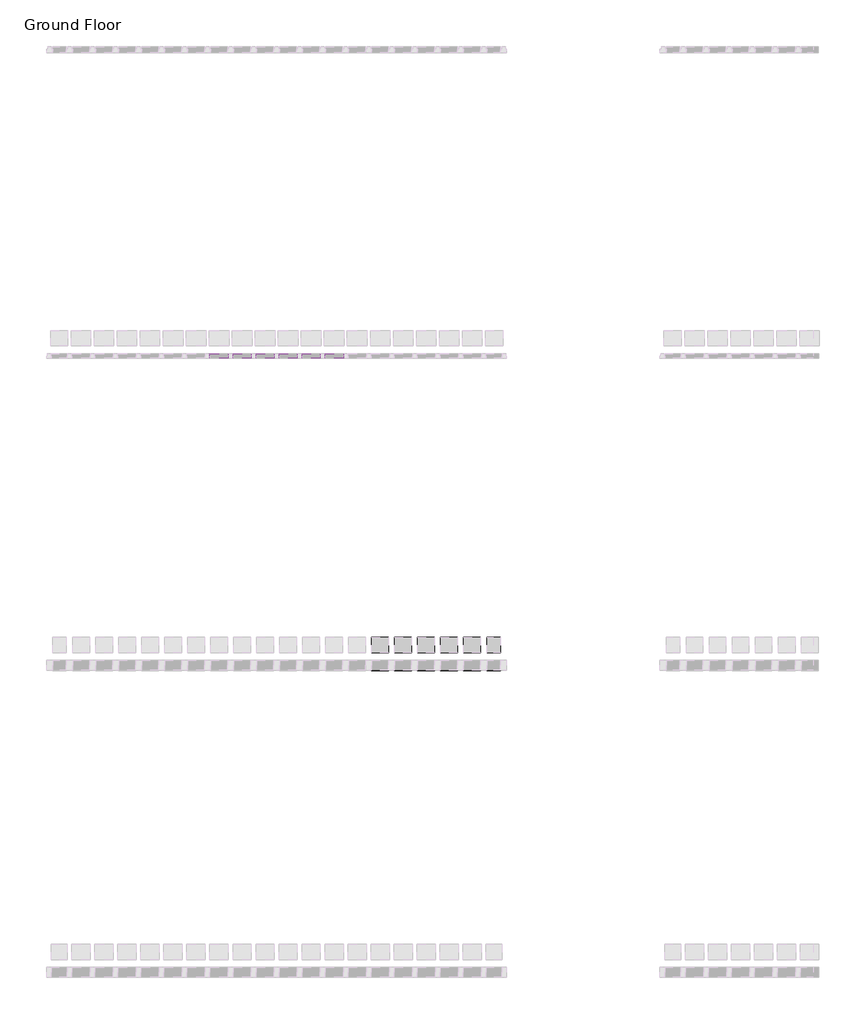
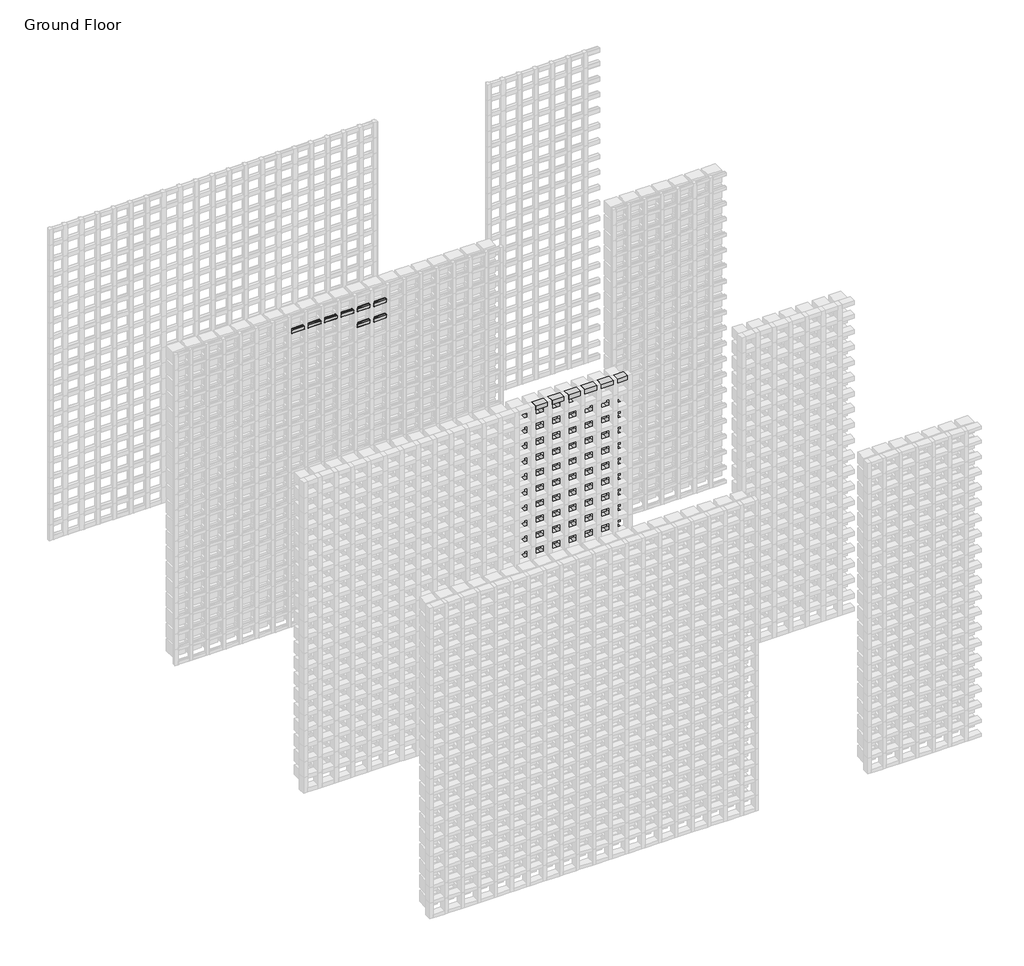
# One storey, part 141 of 350: 111 plates, 27 members.
"""IFC4 building model written with IfcOpenShell, lengths in millimetres."""

from ifc_helpers import new_model, si_unit, origin, place, context, project, spatial, transform, mapped, element, save
from components import rectangular_mullion_01bdf753, rectangular_mullion_655930e9, rectangular_mullion_78309e0b, rectangular_mullion_581565bb, rectangular_mullion_141bfd94, rectangular_mullion_d5b82d3d, rectangular_mullion_f7732041, empty_system_panel_empty_571a4fa0, empty_system_panel_empty_3b500fad, empty_system_panel_empty_1faefc6a, empty_system_panel_empty_b6d7d726

model = new_model("IFC4")

# Units and contexts
model_context = context("Model", 3, world=origin())
ifc_project = project(units=[si_unit("LENGTHUNIT", "METRE", prefix="MILLI")], contexts=[model_context])

# Site, building, storey
site = spatial("IfcSite", under=ifc_project)
building = spatial("IfcBuilding", under=site)
storey = spatial("IfcBuildingStorey", under=building, Name="Ground Floor", Elevation=0.0)

# Members
placement = place(None, origin())
rectangular_mullion_shape = rectangular_mullion_01bdf753(model_context)
element("IfcMember", 1, ObjectType="Rectangular Mullion : Batten_Timber_Modinex_Austratus_Grid_Fin_30x30_Hemlock", at=placement, inside=storey, context=model_context, shape_type="MappedRepresentation", body=[
    mapped(rectangular_mullion_shape, transform((11701.4361642, 42968.2978302, 2700.0), x_axis=(0.0, 0.0, 1.0), y_axis=(0.0, -1.0, 0.0), z_axis=(1.0, 0.0, 0.0))),
])
element("IfcMember", 2, ObjectType="Rectangular Mullion : Batten_Timber_Modinex_Austratus_Grid_Fin_30x30_Hemlock", at=placement, inside=storey, context=model_context, shape_type="MappedRepresentation", body=[
    mapped(rectangular_mullion_shape, transform((11851.4361642, 42968.2978302, 2700.0), x_axis=(0.0, 0.0, 1.0), y_axis=(0.0, -1.0, 0.0), z_axis=(1.0, 0.0, 0.0))),
])
element("IfcMember", 3, ObjectType="Rectangular Mullion : Batten_Timber_Modinex_Austratus_Grid_Fin_30x30_Hemlock", at=placement, inside=storey, context=model_context, shape_type="MappedRepresentation", body=[
    mapped(rectangular_mullion_shape, transform((11101.4361642, 42968.2978302, 2850.0), x_axis=(0.0, 0.0, 1.0), y_axis=(0.0, -1.0, 0.0), z_axis=(1.0, 0.0, 0.0))),
])
element("IfcMember", 4, ObjectType="Rectangular Mullion : Batten_Timber_Modinex_Austratus_Grid_Fin_30x30_Hemlock", at=placement, inside=storey, context=model_context, shape_type="MappedRepresentation", body=[
    mapped(rectangular_mullion_shape, transform((11251.4361642, 42968.2978302, 2850.0), x_axis=(0.0, 0.0, 1.0), y_axis=(0.0, -1.0, 0.0), z_axis=(1.0, 0.0, 0.0))),
])
element("IfcMember", 5, ObjectType="Rectangular Mullion : Batten_Timber_Modinex_Austratus_Grid_Fin_30x30_Hemlock", at=placement, inside=storey, context=model_context, shape_type="MappedRepresentation", body=[
    mapped(rectangular_mullion_shape, transform((11401.4361642, 42968.2978302, 2850.0), x_axis=(0.0, 0.0, 1.0), y_axis=(0.0, -1.0, 0.0), z_axis=(1.0, 0.0, 0.0))),
])
element("IfcMember", 6, ObjectType="Rectangular Mullion : Batten_Timber_Modinex_Austratus_Grid_Fin_30x30_Hemlock", at=placement, inside=storey, context=model_context, shape_type="MappedRepresentation", body=[
    mapped(rectangular_mullion_shape, transform((11551.4361642, 42968.2978302, 2850.0), x_axis=(0.0, 0.0, 1.0), y_axis=(0.0, -1.0, 0.0), z_axis=(1.0, 0.0, 0.0))),
])
element("IfcMember", 7, ObjectType="Rectangular Mullion : Batten_Timber_Modinex_Austratus_Grid_Fin_30x30_Hemlock", at=placement, inside=storey, context=model_context, shape_type="MappedRepresentation", body=[
    mapped(rectangular_mullion_shape, transform((11701.4361642, 42968.2978302, 2850.0), x_axis=(0.0, 0.0, 1.0), y_axis=(0.0, -1.0, 0.0), z_axis=(1.0, 0.0, 0.0))),
])
element("IfcMember", 8, ObjectType="Rectangular Mullion : Batten_Timber_Modinex_Austratus_Grid_Fin_30x30_Hemlock", at=placement, inside=storey, context=model_context, shape_type="MappedRepresentation", body=[
    mapped(rectangular_mullion_shape, transform((11851.4361642, 42968.2978302, 2850.0), x_axis=(0.0, 0.0, 1.0), y_axis=(0.0, -1.0, 0.0), z_axis=(1.0, 0.0, 0.0))),
])
rectangular_mullion_2_shape = rectangular_mullion_655930e9(model_context)
element("IfcMember", 9, ObjectType="Rectangular Mullion : Batten_Timber_Modinex_Austratus_Grid_Fascia_40x65_Hemlock", at=placement, inside=storey, context=model_context, shape_type="MappedRepresentation", body=[
    mapped(rectangular_mullion_2_shape, transform((12016.4361642, 40968.2978302, 0.0), x_axis=(1.0, 0.0, 0.0), y_axis=(0.0, -1.0, 0.0), z_axis=(0.0, 0.0, -1.0))),
])
element("IfcMember", 10, ObjectType="Rectangular Mullion : Batten_Timber_Modinex_Austratus_Grid_Fascia_40x65_Hemlock", at=placement, inside=storey, context=model_context, shape_type="MappedRepresentation", body=[
    mapped(rectangular_mullion_2_shape, transform((12166.4361642, 40968.2978302, 0.0), x_axis=(1.0, 0.0, 0.0), y_axis=(0.0, -1.0, 0.0), z_axis=(0.0, 0.0, -1.0))),
])
element("IfcMember", 11, ObjectType="Rectangular Mullion : Batten_Timber_Modinex_Austratus_Grid_Fascia_40x65_Hemlock", at=placement, inside=storey, context=model_context, shape_type="MappedRepresentation", body=[
    mapped(rectangular_mullion_2_shape, transform((12316.4361642, 40968.2978302, 0.0), x_axis=(1.0, 0.0, 0.0), y_axis=(0.0, -1.0, 0.0), z_axis=(0.0, 0.0, -1.0))),
])
element("IfcMember", 12, ObjectType="Rectangular Mullion : Batten_Timber_Modinex_Austratus_Grid_Fascia_40x65_Hemlock", at=placement, inside=storey, context=model_context, shape_type="MappedRepresentation", body=[
    mapped(rectangular_mullion_2_shape, transform((12466.4361642, 40968.2978302, 0.0), x_axis=(1.0, 0.0, 0.0), y_axis=(0.0, -1.0, 0.0), z_axis=(0.0, 0.0, -1.0))),
])
element("IfcMember", 13, ObjectType="Rectangular Mullion : Batten_Timber_Modinex_Austratus_Grid_Fascia_40x65_Hemlock", at=placement, inside=storey, context=model_context, shape_type="MappedRepresentation", body=[
    mapped(rectangular_mullion_2_shape, transform((12616.4361642, 40968.2978302, 0.0), x_axis=(1.0, 0.0, 0.0), y_axis=(0.0, -1.0, 0.0), z_axis=(0.0, 0.0, -1.0))),
])
element("IfcMember", 14, ObjectType="Rectangular Mullion : Batten_Timber_Modinex_Austratus_Grid_Fascia_40x65_Hemlock", at=placement, inside=storey, context=model_context, shape_type="MappedRepresentation", body=[
    mapped(rectangular_mullion_2_shape, transform((12766.4361642, 40968.2978302, 0.0), x_axis=(1.0, 0.0, 0.0), y_axis=(0.0, -1.0, 0.0), z_axis=(0.0, 0.0, -1.0))),
])
rectangular_mullion_3_shape = rectangular_mullion_78309e0b(model_context)
element("IfcMember", 15, ObjectType="Rectangular Mullion : Batten_Timber_Modinex_Austratus_Grid_Fascia_40x65_Hemlock", at=placement, inside=storey, context=model_context, shape_type="MappedRepresentation", body=[
    mapped(rectangular_mullion_3_shape, transform((12876.4361639, 40968.2978302, 3000.0), x_axis=(0.0, 0.0, 1.0), y_axis=(0.0, -1.0, 0.0), z_axis=(1.0, 0.0, 0.0))),
])
rectangular_mullion_4_shape = rectangular_mullion_581565bb(model_context)
element("IfcMember", 16, ObjectType="Rectangular Mullion : Batten_Timber_Modinex_Austratus_Grid_Fascia_40x65_Hemlock", at=placement, inside=storey, context=model_context, shape_type="MappedRepresentation", body=[
    mapped(rectangular_mullion_4_shape, transform((12146.4361642, 40968.2978302, 3000.0), x_axis=(0.0, 0.0, 1.0), y_axis=(0.0, -1.0, 0.0), z_axis=(1.0, 0.0, 0.0))),
])
element("IfcMember", 17, ObjectType="Rectangular Mullion : Batten_Timber_Modinex_Austratus_Grid_Fascia_40x65_Hemlock", at=placement, inside=storey, context=model_context, shape_type="MappedRepresentation", body=[
    mapped(rectangular_mullion_4_shape, transform((12296.4361642, 40968.2978302, 3000.0), x_axis=(0.0, 0.0, 1.0), y_axis=(0.0, -1.0, 0.0), z_axis=(1.0, 0.0, 0.0))),
])
element("IfcMember", 18, ObjectType="Rectangular Mullion : Batten_Timber_Modinex_Austratus_Grid_Fascia_40x65_Hemlock", at=placement, inside=storey, context=model_context, shape_type="MappedRepresentation", body=[
    mapped(rectangular_mullion_4_shape, transform((12446.4361642, 40968.2978302, 3000.0), x_axis=(0.0, 0.0, 1.0), y_axis=(0.0, -1.0, 0.0), z_axis=(1.0, 0.0, 0.0))),
])
element("IfcMember", 19, ObjectType="Rectangular Mullion : Batten_Timber_Modinex_Austratus_Grid_Fascia_40x65_Hemlock", at=placement, inside=storey, context=model_context, shape_type="MappedRepresentation", body=[
    mapped(rectangular_mullion_4_shape, transform((12596.4361642, 40968.2978302, 3000.0), x_axis=(0.0, 0.0, 1.0), y_axis=(0.0, -1.0, 0.0), z_axis=(1.0, 0.0, 0.0))),
])
element("IfcMember", 20, ObjectType="Rectangular Mullion : Batten_Timber_Modinex_Austratus_Grid_Fascia_40x65_Hemlock", at=placement, inside=storey, context=model_context, shape_type="MappedRepresentation", body=[
    mapped(rectangular_mullion_4_shape, transform((12746.4361642, 40968.2978302, 3000.0), x_axis=(0.0, 0.0, 1.0), y_axis=(0.0, -1.0, 0.0), z_axis=(1.0, 0.0, 0.0))),
])
rectangular_mullion_5_shape = rectangular_mullion_141bfd94(model_context)
element("IfcMember", 21, ObjectType="Rectangular Mullion : Batten_Timber_Modinex_Austratus_Grid_Fascia_40x65_Hemlock", at=placement, inside=storey, context=model_context, shape_type="MappedRepresentation", body=[
    mapped(rectangular_mullion_5_shape, transform((12786.4361642, 40968.2978302, 0.0), x_axis=(0.0, 0.0, -1.0), y_axis=(0.0, -1.0, 0.0), z_axis=(-1.0, 0.0, 0.0))),
])
rectangular_mullion_6_shape = rectangular_mullion_d5b82d3d(model_context)
element("IfcMember", 22, ObjectType="Rectangular Mullion : Batten_Timber_Modinex_Austratus_Grid_Fascia_40x65_Hemlock", at=placement, inside=storey, context=model_context, shape_type="MappedRepresentation", body=[
    mapped(rectangular_mullion_6_shape, transform((12036.4361642, 40968.2978302, 0.0), x_axis=(0.0, 0.0, -1.0), y_axis=(0.0, -1.0, 0.0), z_axis=(-1.0, 0.0, 0.0))),
])
element("IfcMember", 23, ObjectType="Rectangular Mullion : Batten_Timber_Modinex_Austratus_Grid_Fascia_40x65_Hemlock", at=placement, inside=storey, context=model_context, shape_type="MappedRepresentation", body=[
    mapped(rectangular_mullion_6_shape, transform((12186.4361642, 40968.2978302, 0.0), x_axis=(0.0, 0.0, -1.0), y_axis=(0.0, -1.0, 0.0), z_axis=(-1.0, 0.0, 0.0))),
])
element("IfcMember", 24, ObjectType="Rectangular Mullion : Batten_Timber_Modinex_Austratus_Grid_Fascia_40x65_Hemlock", at=placement, inside=storey, context=model_context, shape_type="MappedRepresentation", body=[
    mapped(rectangular_mullion_6_shape, transform((12336.4361642, 40968.2978302, 0.0), x_axis=(0.0, 0.0, -1.0), y_axis=(0.0, -1.0, 0.0), z_axis=(-1.0, 0.0, 0.0))),
])
element("IfcMember", 25, ObjectType="Rectangular Mullion : Batten_Timber_Modinex_Austratus_Grid_Fascia_40x65_Hemlock", at=placement, inside=storey, context=model_context, shape_type="MappedRepresentation", body=[
    mapped(rectangular_mullion_6_shape, transform((12486.4361642, 40968.2978302, 0.0), x_axis=(0.0, 0.0, -1.0), y_axis=(0.0, -1.0, 0.0), z_axis=(-1.0, 0.0, 0.0))),
])
element("IfcMember", 26, ObjectType="Rectangular Mullion : Batten_Timber_Modinex_Austratus_Grid_Fascia_40x65_Hemlock", at=placement, inside=storey, context=model_context, shape_type="MappedRepresentation", body=[
    mapped(rectangular_mullion_6_shape, transform((12636.4361642, 40968.2978302, 0.0), x_axis=(0.0, 0.0, -1.0), y_axis=(0.0, -1.0, 0.0), z_axis=(-1.0, 0.0, 0.0))),
])
rectangular_mullion_7_shape = rectangular_mullion_f7732041(model_context)
element("IfcMember", 27, ObjectType="Rectangular Mullion : Batten_Timber_Modinex_Austratus_Grid_Fascia_40x65_Hemlock", at=placement, inside=storey, context=model_context, shape_type="MappedRepresentation", body=[
    mapped(rectangular_mullion_7_shape, transform((12916.4361639, 40968.2978302, 0.0), x_axis=(1.0, 0.0, 0.0), y_axis=(0.0, -1.0, 0.0), z_axis=(0.0, 0.0, -1.0))),
])

# Plates
empty_system_panel_empty_shape = empty_system_panel_empty_571a4fa0(model_context)
element("IfcPlate", 28, ObjectType="Empty System Panel : Empty", at=placement, inside=storey, context=model_context, shape_type="MappedRepresentation", body=[
    mapped(empty_system_panel_empty_shape, transform((12831.4361641, 40968.2978302, 40.0), x_axis=(1.0, 0.0, 0.0), y_axis=(0.0, 1.0, 0.0), z_axis=(0.0, 0.0, 1.0))),
])
empty_system_panel_empty_2_shape = empty_system_panel_empty_3b500fad(model_context)
element("IfcPlate", 29, ObjectType="Empty System Panel : Empty", at=placement, inside=storey, context=model_context, shape_type="MappedRepresentation", body=[
    mapped(empty_system_panel_empty_2_shape, transform((12091.4361642, 40968.2978302, 170.0), x_axis=(1.0, 0.0, 0.0), y_axis=(0.0, 1.0, 0.0), z_axis=(0.0, 0.0, 1.0))),
])
element("IfcPlate", 30, ObjectType="Empty System Panel : Empty", at=placement, inside=storey, context=model_context, shape_type="MappedRepresentation", body=[
    mapped(empty_system_panel_empty_2_shape, transform((12241.4361642, 40968.2978302, 170.0), x_axis=(1.0, 0.0, 0.0), y_axis=(0.0, 1.0, 0.0), z_axis=(0.0, 0.0, 1.0))),
])
element("IfcPlate", 31, ObjectType="Empty System Panel : Empty", at=placement, inside=storey, context=model_context, shape_type="MappedRepresentation", body=[
    mapped(empty_system_panel_empty_2_shape, transform((12391.4361642, 40968.2978302, 170.0), x_axis=(1.0, 0.0, 0.0), y_axis=(0.0, 1.0, 0.0), z_axis=(0.0, 0.0, 1.0))),
])
element("IfcPlate", 32, ObjectType="Empty System Panel : Empty", at=placement, inside=storey, context=model_context, shape_type="MappedRepresentation", body=[
    mapped(empty_system_panel_empty_2_shape, transform((12541.4361642, 40968.2978302, 170.0), x_axis=(1.0, 0.0, 0.0), y_axis=(0.0, 1.0, 0.0), z_axis=(0.0, 0.0, 1.0))),
])
element("IfcPlate", 33, ObjectType="Empty System Panel : Empty", at=placement, inside=storey, context=model_context, shape_type="MappedRepresentation", body=[
    mapped(empty_system_panel_empty_2_shape, transform((12691.4361642, 40968.2978302, 170.0), x_axis=(1.0, 0.0, 0.0), y_axis=(0.0, 1.0, 0.0), z_axis=(0.0, 0.0, 1.0))),
])
element("IfcPlate", 34, ObjectType="Empty System Panel : Empty", at=placement, inside=storey, context=model_context, shape_type="MappedRepresentation", body=[
    mapped(empty_system_panel_empty_2_shape, transform((12091.4361642, 40968.2978302, 320.0), x_axis=(1.0, 0.0, 0.0), y_axis=(0.0, 1.0, 0.0), z_axis=(0.0, 0.0, 1.0))),
])
element("IfcPlate", 35, ObjectType="Empty System Panel : Empty", at=placement, inside=storey, context=model_context, shape_type="MappedRepresentation", body=[
    mapped(empty_system_panel_empty_2_shape, transform((12241.4361642, 40968.2978302, 320.0), x_axis=(1.0, 0.0, 0.0), y_axis=(0.0, 1.0, 0.0), z_axis=(0.0, 0.0, 1.0))),
])
element("IfcPlate", 36, ObjectType="Empty System Panel : Empty", at=placement, inside=storey, context=model_context, shape_type="MappedRepresentation", body=[
    mapped(empty_system_panel_empty_2_shape, transform((12391.4361642, 40968.2978302, 320.0), x_axis=(1.0, 0.0, 0.0), y_axis=(0.0, 1.0, 0.0), z_axis=(0.0, 0.0, 1.0))),
])
element("IfcPlate", 37, ObjectType="Empty System Panel : Empty", at=placement, inside=storey, context=model_context, shape_type="MappedRepresentation", body=[
    mapped(empty_system_panel_empty_2_shape, transform((12541.4361642, 40968.2978302, 320.0), x_axis=(1.0, 0.0, 0.0), y_axis=(0.0, 1.0, 0.0), z_axis=(0.0, 0.0, 1.0))),
])
element("IfcPlate", 38, ObjectType="Empty System Panel : Empty", at=placement, inside=storey, context=model_context, shape_type="MappedRepresentation", body=[
    mapped(empty_system_panel_empty_2_shape, transform((12691.4361642, 40968.2978302, 320.0), x_axis=(1.0, 0.0, 0.0), y_axis=(0.0, 1.0, 0.0), z_axis=(0.0, 0.0, 1.0))),
])
element("IfcPlate", 39, ObjectType="Empty System Panel : Empty", at=placement, inside=storey, context=model_context, shape_type="MappedRepresentation", body=[
    mapped(empty_system_panel_empty_2_shape, transform((12091.4361642, 40968.2978302, 470.0), x_axis=(1.0, 0.0, 0.0), y_axis=(0.0, 1.0, 0.0), z_axis=(0.0, 0.0, 1.0))),
])
element("IfcPlate", 40, ObjectType="Empty System Panel : Empty", at=placement, inside=storey, context=model_context, shape_type="MappedRepresentation", body=[
    mapped(empty_system_panel_empty_2_shape, transform((12241.4361642, 40968.2978302, 470.0), x_axis=(1.0, 0.0, 0.0), y_axis=(0.0, 1.0, 0.0), z_axis=(0.0, 0.0, 1.0))),
])
element("IfcPlate", 41, ObjectType="Empty System Panel : Empty", at=placement, inside=storey, context=model_context, shape_type="MappedRepresentation", body=[
    mapped(empty_system_panel_empty_2_shape, transform((12391.4361642, 40968.2978302, 470.0), x_axis=(1.0, 0.0, 0.0), y_axis=(0.0, 1.0, 0.0), z_axis=(0.0, 0.0, 1.0))),
])
element("IfcPlate", 42, ObjectType="Empty System Panel : Empty", at=placement, inside=storey, context=model_context, shape_type="MappedRepresentation", body=[
    mapped(empty_system_panel_empty_2_shape, transform((12541.4361642, 40968.2978302, 470.0), x_axis=(1.0, 0.0, 0.0), y_axis=(0.0, 1.0, 0.0), z_axis=(0.0, 0.0, 1.0))),
])
element("IfcPlate", 43, ObjectType="Empty System Panel : Empty", at=placement, inside=storey, context=model_context, shape_type="MappedRepresentation", body=[
    mapped(empty_system_panel_empty_2_shape, transform((12691.4361642, 40968.2978302, 470.0), x_axis=(1.0, 0.0, 0.0), y_axis=(0.0, 1.0, 0.0), z_axis=(0.0, 0.0, 1.0))),
])
element("IfcPlate", 44, ObjectType="Empty System Panel : Empty", at=placement, inside=storey, context=model_context, shape_type="MappedRepresentation", body=[
    mapped(empty_system_panel_empty_2_shape, transform((12091.4361642, 40968.2978302, 620.0), x_axis=(1.0, 0.0, 0.0), y_axis=(0.0, 1.0, 0.0), z_axis=(0.0, 0.0, 1.0))),
])
element("IfcPlate", 45, ObjectType="Empty System Panel : Empty", at=placement, inside=storey, context=model_context, shape_type="MappedRepresentation", body=[
    mapped(empty_system_panel_empty_2_shape, transform((12241.4361642, 40968.2978302, 620.0), x_axis=(1.0, 0.0, 0.0), y_axis=(0.0, 1.0, 0.0), z_axis=(0.0, 0.0, 1.0))),
])
element("IfcPlate", 46, ObjectType="Empty System Panel : Empty", at=placement, inside=storey, context=model_context, shape_type="MappedRepresentation", body=[
    mapped(empty_system_panel_empty_2_shape, transform((12391.4361642, 40968.2978302, 620.0), x_axis=(1.0, 0.0, 0.0), y_axis=(0.0, 1.0, 0.0), z_axis=(0.0, 0.0, 1.0))),
])
element("IfcPlate", 47, ObjectType="Empty System Panel : Empty", at=placement, inside=storey, context=model_context, shape_type="MappedRepresentation", body=[
    mapped(empty_system_panel_empty_2_shape, transform((12541.4361642, 40968.2978302, 620.0), x_axis=(1.0, 0.0, 0.0), y_axis=(0.0, 1.0, 0.0), z_axis=(0.0, 0.0, 1.0))),
])
element("IfcPlate", 48, ObjectType="Empty System Panel : Empty", at=placement, inside=storey, context=model_context, shape_type="MappedRepresentation", body=[
    mapped(empty_system_panel_empty_2_shape, transform((12691.4361642, 40968.2978302, 620.0), x_axis=(1.0, 0.0, 0.0), y_axis=(0.0, 1.0, 0.0), z_axis=(0.0, 0.0, 1.0))),
])
element("IfcPlate", 49, ObjectType="Empty System Panel : Empty", at=placement, inside=storey, context=model_context, shape_type="MappedRepresentation", body=[
    mapped(empty_system_panel_empty_2_shape, transform((12091.4361642, 40968.2978302, 770.0), x_axis=(1.0, 0.0, 0.0), y_axis=(0.0, 1.0, 0.0), z_axis=(0.0, 0.0, 1.0))),
])
element("IfcPlate", 50, ObjectType="Empty System Panel : Empty", at=placement, inside=storey, context=model_context, shape_type="MappedRepresentation", body=[
    mapped(empty_system_panel_empty_2_shape, transform((12241.4361642, 40968.2978302, 770.0), x_axis=(1.0, 0.0, 0.0), y_axis=(0.0, 1.0, 0.0), z_axis=(0.0, 0.0, 1.0))),
])
element("IfcPlate", 51, ObjectType="Empty System Panel : Empty", at=placement, inside=storey, context=model_context, shape_type="MappedRepresentation", body=[
    mapped(empty_system_panel_empty_2_shape, transform((12391.4361642, 40968.2978302, 770.0), x_axis=(1.0, 0.0, 0.0), y_axis=(0.0, 1.0, 0.0), z_axis=(0.0, 0.0, 1.0))),
])
element("IfcPlate", 52, ObjectType="Empty System Panel : Empty", at=placement, inside=storey, context=model_context, shape_type="MappedRepresentation", body=[
    mapped(empty_system_panel_empty_2_shape, transform((12541.4361642, 40968.2978302, 770.0), x_axis=(1.0, 0.0, 0.0), y_axis=(0.0, 1.0, 0.0), z_axis=(0.0, 0.0, 1.0))),
])
element("IfcPlate", 53, ObjectType="Empty System Panel : Empty", at=placement, inside=storey, context=model_context, shape_type="MappedRepresentation", body=[
    mapped(empty_system_panel_empty_2_shape, transform((12691.4361642, 40968.2978302, 770.0), x_axis=(1.0, 0.0, 0.0), y_axis=(0.0, 1.0, 0.0), z_axis=(0.0, 0.0, 1.0))),
])
element("IfcPlate", 54, ObjectType="Empty System Panel : Empty", at=placement, inside=storey, context=model_context, shape_type="MappedRepresentation", body=[
    mapped(empty_system_panel_empty_2_shape, transform((12091.4361642, 40968.2978302, 920.0), x_axis=(1.0, 0.0, 0.0), y_axis=(0.0, 1.0, 0.0), z_axis=(0.0, 0.0, 1.0))),
])
element("IfcPlate", 55, ObjectType="Empty System Panel : Empty", at=placement, inside=storey, context=model_context, shape_type="MappedRepresentation", body=[
    mapped(empty_system_panel_empty_2_shape, transform((12241.4361642, 40968.2978302, 920.0), x_axis=(1.0, 0.0, 0.0), y_axis=(0.0, 1.0, 0.0), z_axis=(0.0, 0.0, 1.0))),
])
element("IfcPlate", 56, ObjectType="Empty System Panel : Empty", at=placement, inside=storey, context=model_context, shape_type="MappedRepresentation", body=[
    mapped(empty_system_panel_empty_2_shape, transform((12391.4361642, 40968.2978302, 920.0), x_axis=(1.0, 0.0, 0.0), y_axis=(0.0, 1.0, 0.0), z_axis=(0.0, 0.0, 1.0))),
])
element("IfcPlate", 57, ObjectType="Empty System Panel : Empty", at=placement, inside=storey, context=model_context, shape_type="MappedRepresentation", body=[
    mapped(empty_system_panel_empty_2_shape, transform((12541.4361642, 40968.2978302, 920.0), x_axis=(1.0, 0.0, 0.0), y_axis=(0.0, 1.0, 0.0), z_axis=(0.0, 0.0, 1.0))),
])
element("IfcPlate", 58, ObjectType="Empty System Panel : Empty", at=placement, inside=storey, context=model_context, shape_type="MappedRepresentation", body=[
    mapped(empty_system_panel_empty_2_shape, transform((12691.4361642, 40968.2978302, 920.0), x_axis=(1.0, 0.0, 0.0), y_axis=(0.0, 1.0, 0.0), z_axis=(0.0, 0.0, 1.0))),
])
element("IfcPlate", 59, ObjectType="Empty System Panel : Empty", at=placement, inside=storey, context=model_context, shape_type="MappedRepresentation", body=[
    mapped(empty_system_panel_empty_2_shape, transform((12091.4361642, 40968.2978302, 1070.0), x_axis=(1.0, 0.0, 0.0), y_axis=(0.0, 1.0, 0.0), z_axis=(0.0, 0.0, 1.0))),
])
element("IfcPlate", 60, ObjectType="Empty System Panel : Empty", at=placement, inside=storey, context=model_context, shape_type="MappedRepresentation", body=[
    mapped(empty_system_panel_empty_2_shape, transform((12241.4361642, 40968.2978302, 1070.0), x_axis=(1.0, 0.0, 0.0), y_axis=(0.0, 1.0, 0.0), z_axis=(0.0, 0.0, 1.0))),
])
element("IfcPlate", 61, ObjectType="Empty System Panel : Empty", at=placement, inside=storey, context=model_context, shape_type="MappedRepresentation", body=[
    mapped(empty_system_panel_empty_2_shape, transform((12391.4361642, 40968.2978302, 1070.0), x_axis=(1.0, 0.0, 0.0), y_axis=(0.0, 1.0, 0.0), z_axis=(0.0, 0.0, 1.0))),
])
element("IfcPlate", 62, ObjectType="Empty System Panel : Empty", at=placement, inside=storey, context=model_context, shape_type="MappedRepresentation", body=[
    mapped(empty_system_panel_empty_2_shape, transform((12541.4361642, 40968.2978302, 1070.0), x_axis=(1.0, 0.0, 0.0), y_axis=(0.0, 1.0, 0.0), z_axis=(0.0, 0.0, 1.0))),
])
element("IfcPlate", 63, ObjectType="Empty System Panel : Empty", at=placement, inside=storey, context=model_context, shape_type="MappedRepresentation", body=[
    mapped(empty_system_panel_empty_2_shape, transform((12691.4361642, 40968.2978302, 1070.0), x_axis=(1.0, 0.0, 0.0), y_axis=(0.0, 1.0, 0.0), z_axis=(0.0, 0.0, 1.0))),
])
element("IfcPlate", 64, ObjectType="Empty System Panel : Empty", at=placement, inside=storey, context=model_context, shape_type="MappedRepresentation", body=[
    mapped(empty_system_panel_empty_2_shape, transform((12091.4361642, 40968.2978302, 1220.0), x_axis=(1.0, 0.0, 0.0), y_axis=(0.0, 1.0, 0.0), z_axis=(0.0, 0.0, 1.0))),
])
element("IfcPlate", 65, ObjectType="Empty System Panel : Empty", at=placement, inside=storey, context=model_context, shape_type="MappedRepresentation", body=[
    mapped(empty_system_panel_empty_2_shape, transform((12241.4361642, 40968.2978302, 1220.0), x_axis=(1.0, 0.0, 0.0), y_axis=(0.0, 1.0, 0.0), z_axis=(0.0, 0.0, 1.0))),
])
element("IfcPlate", 66, ObjectType="Empty System Panel : Empty", at=placement, inside=storey, context=model_context, shape_type="MappedRepresentation", body=[
    mapped(empty_system_panel_empty_2_shape, transform((12391.4361642, 40968.2978302, 1220.0), x_axis=(1.0, 0.0, 0.0), y_axis=(0.0, 1.0, 0.0), z_axis=(0.0, 0.0, 1.0))),
])
element("IfcPlate", 67, ObjectType="Empty System Panel : Empty", at=placement, inside=storey, context=model_context, shape_type="MappedRepresentation", body=[
    mapped(empty_system_panel_empty_2_shape, transform((12541.4361642, 40968.2978302, 1220.0), x_axis=(1.0, 0.0, 0.0), y_axis=(0.0, 1.0, 0.0), z_axis=(0.0, 0.0, 1.0))),
])
element("IfcPlate", 68, ObjectType="Empty System Panel : Empty", at=placement, inside=storey, context=model_context, shape_type="MappedRepresentation", body=[
    mapped(empty_system_panel_empty_2_shape, transform((12691.4361642, 40968.2978302, 1220.0), x_axis=(1.0, 0.0, 0.0), y_axis=(0.0, 1.0, 0.0), z_axis=(0.0, 0.0, 1.0))),
])
element("IfcPlate", 69, ObjectType="Empty System Panel : Empty", at=placement, inside=storey, context=model_context, shape_type="MappedRepresentation", body=[
    mapped(empty_system_panel_empty_2_shape, transform((12091.4361642, 40968.2978302, 1370.0), x_axis=(1.0, 0.0, 0.0), y_axis=(0.0, 1.0, 0.0), z_axis=(0.0, 0.0, 1.0))),
])
element("IfcPlate", 70, ObjectType="Empty System Panel : Empty", at=placement, inside=storey, context=model_context, shape_type="MappedRepresentation", body=[
    mapped(empty_system_panel_empty_2_shape, transform((12241.4361642, 40968.2978302, 1370.0), x_axis=(1.0, 0.0, 0.0), y_axis=(0.0, 1.0, 0.0), z_axis=(0.0, 0.0, 1.0))),
])
element("IfcPlate", 71, ObjectType="Empty System Panel : Empty", at=placement, inside=storey, context=model_context, shape_type="MappedRepresentation", body=[
    mapped(empty_system_panel_empty_2_shape, transform((12391.4361642, 40968.2978302, 1370.0), x_axis=(1.0, 0.0, 0.0), y_axis=(0.0, 1.0, 0.0), z_axis=(0.0, 0.0, 1.0))),
])
element("IfcPlate", 72, ObjectType="Empty System Panel : Empty", at=placement, inside=storey, context=model_context, shape_type="MappedRepresentation", body=[
    mapped(empty_system_panel_empty_2_shape, transform((12541.4361642, 40968.2978302, 1370.0), x_axis=(1.0, 0.0, 0.0), y_axis=(0.0, 1.0, 0.0), z_axis=(0.0, 0.0, 1.0))),
])
element("IfcPlate", 73, ObjectType="Empty System Panel : Empty", at=placement, inside=storey, context=model_context, shape_type="MappedRepresentation", body=[
    mapped(empty_system_panel_empty_2_shape, transform((12691.4361642, 40968.2978302, 1370.0), x_axis=(1.0, 0.0, 0.0), y_axis=(0.0, 1.0, 0.0), z_axis=(0.0, 0.0, 1.0))),
])
element("IfcPlate", 74, ObjectType="Empty System Panel : Empty", at=placement, inside=storey, context=model_context, shape_type="MappedRepresentation", body=[
    mapped(empty_system_panel_empty_2_shape, transform((12091.4361642, 40968.2978302, 1520.0), x_axis=(1.0, 0.0, 0.0), y_axis=(0.0, 1.0, 0.0), z_axis=(0.0, 0.0, 1.0))),
])
element("IfcPlate", 75, ObjectType="Empty System Panel : Empty", at=placement, inside=storey, context=model_context, shape_type="MappedRepresentation", body=[
    mapped(empty_system_panel_empty_2_shape, transform((12241.4361642, 40968.2978302, 1520.0), x_axis=(1.0, 0.0, 0.0), y_axis=(0.0, 1.0, 0.0), z_axis=(0.0, 0.0, 1.0))),
])
element("IfcPlate", 76, ObjectType="Empty System Panel : Empty", at=placement, inside=storey, context=model_context, shape_type="MappedRepresentation", body=[
    mapped(empty_system_panel_empty_2_shape, transform((12391.4361642, 40968.2978302, 1520.0), x_axis=(1.0, 0.0, 0.0), y_axis=(0.0, 1.0, 0.0), z_axis=(0.0, 0.0, 1.0))),
])
element("IfcPlate", 77, ObjectType="Empty System Panel : Empty", at=placement, inside=storey, context=model_context, shape_type="MappedRepresentation", body=[
    mapped(empty_system_panel_empty_2_shape, transform((12541.4361642, 40968.2978302, 1520.0), x_axis=(1.0, 0.0, 0.0), y_axis=(0.0, 1.0, 0.0), z_axis=(0.0, 0.0, 1.0))),
])
element("IfcPlate", 78, ObjectType="Empty System Panel : Empty", at=placement, inside=storey, context=model_context, shape_type="MappedRepresentation", body=[
    mapped(empty_system_panel_empty_2_shape, transform((12691.4361642, 40968.2978302, 1520.0), x_axis=(1.0, 0.0, 0.0), y_axis=(0.0, 1.0, 0.0), z_axis=(0.0, 0.0, 1.0))),
])
element("IfcPlate", 79, ObjectType="Empty System Panel : Empty", at=placement, inside=storey, context=model_context, shape_type="MappedRepresentation", body=[
    mapped(empty_system_panel_empty_2_shape, transform((12091.4361642, 40968.2978302, 1670.0), x_axis=(1.0, 0.0, 0.0), y_axis=(0.0, 1.0, 0.0), z_axis=(0.0, 0.0, 1.0))),
])
element("IfcPlate", 80, ObjectType="Empty System Panel : Empty", at=placement, inside=storey, context=model_context, shape_type="MappedRepresentation", body=[
    mapped(empty_system_panel_empty_2_shape, transform((12241.4361642, 40968.2978302, 1670.0), x_axis=(1.0, 0.0, 0.0), y_axis=(0.0, 1.0, 0.0), z_axis=(0.0, 0.0, 1.0))),
])
element("IfcPlate", 81, ObjectType="Empty System Panel : Empty", at=placement, inside=storey, context=model_context, shape_type="MappedRepresentation", body=[
    mapped(empty_system_panel_empty_2_shape, transform((12391.4361642, 40968.2978302, 1670.0), x_axis=(1.0, 0.0, 0.0), y_axis=(0.0, 1.0, 0.0), z_axis=(0.0, 0.0, 1.0))),
])
element("IfcPlate", 82, ObjectType="Empty System Panel : Empty", at=placement, inside=storey, context=model_context, shape_type="MappedRepresentation", body=[
    mapped(empty_system_panel_empty_2_shape, transform((12541.4361642, 40968.2978302, 1670.0), x_axis=(1.0, 0.0, 0.0), y_axis=(0.0, 1.0, 0.0), z_axis=(0.0, 0.0, 1.0))),
])
element("IfcPlate", 83, ObjectType="Empty System Panel : Empty", at=placement, inside=storey, context=model_context, shape_type="MappedRepresentation", body=[
    mapped(empty_system_panel_empty_2_shape, transform((12691.4361642, 40968.2978302, 1670.0), x_axis=(1.0, 0.0, 0.0), y_axis=(0.0, 1.0, 0.0), z_axis=(0.0, 0.0, 1.0))),
])
element("IfcPlate", 84, ObjectType="Empty System Panel : Empty", at=placement, inside=storey, context=model_context, shape_type="MappedRepresentation", body=[
    mapped(empty_system_panel_empty_2_shape, transform((12091.4361642, 40968.2978302, 1820.0), x_axis=(1.0, 0.0, 0.0), y_axis=(0.0, 1.0, 0.0), z_axis=(0.0, 0.0, 1.0))),
])
element("IfcPlate", 85, ObjectType="Empty System Panel : Empty", at=placement, inside=storey, context=model_context, shape_type="MappedRepresentation", body=[
    mapped(empty_system_panel_empty_2_shape, transform((12241.4361642, 40968.2978302, 1820.0), x_axis=(1.0, 0.0, 0.0), y_axis=(0.0, 1.0, 0.0), z_axis=(0.0, 0.0, 1.0))),
])
element("IfcPlate", 86, ObjectType="Empty System Panel : Empty", at=placement, inside=storey, context=model_context, shape_type="MappedRepresentation", body=[
    mapped(empty_system_panel_empty_2_shape, transform((12391.4361642, 40968.2978302, 1820.0), x_axis=(1.0, 0.0, 0.0), y_axis=(0.0, 1.0, 0.0), z_axis=(0.0, 0.0, 1.0))),
])
element("IfcPlate", 87, ObjectType="Empty System Panel : Empty", at=placement, inside=storey, context=model_context, shape_type="MappedRepresentation", body=[
    mapped(empty_system_panel_empty_2_shape, transform((12541.4361642, 40968.2978302, 1820.0), x_axis=(1.0, 0.0, 0.0), y_axis=(0.0, 1.0, 0.0), z_axis=(0.0, 0.0, 1.0))),
])
element("IfcPlate", 88, ObjectType="Empty System Panel : Empty", at=placement, inside=storey, context=model_context, shape_type="MappedRepresentation", body=[
    mapped(empty_system_panel_empty_2_shape, transform((12691.4361642, 40968.2978302, 1820.0), x_axis=(1.0, 0.0, 0.0), y_axis=(0.0, 1.0, 0.0), z_axis=(0.0, 0.0, 1.0))),
])
element("IfcPlate", 89, ObjectType="Empty System Panel : Empty", at=placement, inside=storey, context=model_context, shape_type="MappedRepresentation", body=[
    mapped(empty_system_panel_empty_2_shape, transform((12091.4361642, 40968.2978302, 1970.0), x_axis=(1.0, 0.0, 0.0), y_axis=(0.0, 1.0, 0.0), z_axis=(0.0, 0.0, 1.0))),
])
element("IfcPlate", 90, ObjectType="Empty System Panel : Empty", at=placement, inside=storey, context=model_context, shape_type="MappedRepresentation", body=[
    mapped(empty_system_panel_empty_2_shape, transform((12241.4361642, 40968.2978302, 1970.0), x_axis=(1.0, 0.0, 0.0), y_axis=(0.0, 1.0, 0.0), z_axis=(0.0, 0.0, 1.0))),
])
element("IfcPlate", 91, ObjectType="Empty System Panel : Empty", at=placement, inside=storey, context=model_context, shape_type="MappedRepresentation", body=[
    mapped(empty_system_panel_empty_2_shape, transform((12391.4361642, 40968.2978302, 1970.0), x_axis=(1.0, 0.0, 0.0), y_axis=(0.0, 1.0, 0.0), z_axis=(0.0, 0.0, 1.0))),
])
element("IfcPlate", 92, ObjectType="Empty System Panel : Empty", at=placement, inside=storey, context=model_context, shape_type="MappedRepresentation", body=[
    mapped(empty_system_panel_empty_2_shape, transform((12541.4361642, 40968.2978302, 1970.0), x_axis=(1.0, 0.0, 0.0), y_axis=(0.0, 1.0, 0.0), z_axis=(0.0, 0.0, 1.0))),
])
element("IfcPlate", 93, ObjectType="Empty System Panel : Empty", at=placement, inside=storey, context=model_context, shape_type="MappedRepresentation", body=[
    mapped(empty_system_panel_empty_2_shape, transform((12691.4361642, 40968.2978302, 1970.0), x_axis=(1.0, 0.0, 0.0), y_axis=(0.0, 1.0, 0.0), z_axis=(0.0, 0.0, 1.0))),
])
element("IfcPlate", 94, ObjectType="Empty System Panel : Empty", at=placement, inside=storey, context=model_context, shape_type="MappedRepresentation", body=[
    mapped(empty_system_panel_empty_2_shape, transform((12091.4361642, 40968.2978302, 2120.0), x_axis=(1.0, 0.0, 0.0), y_axis=(0.0, 1.0, 0.0), z_axis=(0.0, 0.0, 1.0))),
])
element("IfcPlate", 95, ObjectType="Empty System Panel : Empty", at=placement, inside=storey, context=model_context, shape_type="MappedRepresentation", body=[
    mapped(empty_system_panel_empty_2_shape, transform((12241.4361642, 40968.2978302, 2120.0), x_axis=(1.0, 0.0, 0.0), y_axis=(0.0, 1.0, 0.0), z_axis=(0.0, 0.0, 1.0))),
])
element("IfcPlate", 96, ObjectType="Empty System Panel : Empty", at=placement, inside=storey, context=model_context, shape_type="MappedRepresentation", body=[
    mapped(empty_system_panel_empty_2_shape, transform((12391.4361642, 40968.2978302, 2120.0), x_axis=(1.0, 0.0, 0.0), y_axis=(0.0, 1.0, 0.0), z_axis=(0.0, 0.0, 1.0))),
])
element("IfcPlate", 97, ObjectType="Empty System Panel : Empty", at=placement, inside=storey, context=model_context, shape_type="MappedRepresentation", body=[
    mapped(empty_system_panel_empty_2_shape, transform((12541.4361642, 40968.2978302, 2120.0), x_axis=(1.0, 0.0, 0.0), y_axis=(0.0, 1.0, 0.0), z_axis=(0.0, 0.0, 1.0))),
])
element("IfcPlate", 98, ObjectType="Empty System Panel : Empty", at=placement, inside=storey, context=model_context, shape_type="MappedRepresentation", body=[
    mapped(empty_system_panel_empty_2_shape, transform((12691.4361642, 40968.2978302, 2120.0), x_axis=(1.0, 0.0, 0.0), y_axis=(0.0, 1.0, 0.0), z_axis=(0.0, 0.0, 1.0))),
])
element("IfcPlate", 99, ObjectType="Empty System Panel : Empty", at=placement, inside=storey, context=model_context, shape_type="MappedRepresentation", body=[
    mapped(empty_system_panel_empty_2_shape, transform((12091.4361642, 40968.2978302, 2270.0), x_axis=(1.0, 0.0, 0.0), y_axis=(0.0, 1.0, 0.0), z_axis=(0.0, 0.0, 1.0))),
])
element("IfcPlate", 100, ObjectType="Empty System Panel : Empty", at=placement, inside=storey, context=model_context, shape_type="MappedRepresentation", body=[
    mapped(empty_system_panel_empty_2_shape, transform((12241.4361642, 40968.2978302, 2270.0), x_axis=(1.0, 0.0, 0.0), y_axis=(0.0, 1.0, 0.0), z_axis=(0.0, 0.0, 1.0))),
])
element("IfcPlate", 101, ObjectType="Empty System Panel : Empty", at=placement, inside=storey, context=model_context, shape_type="MappedRepresentation", body=[
    mapped(empty_system_panel_empty_2_shape, transform((12391.4361642, 40968.2978302, 2270.0), x_axis=(1.0, 0.0, 0.0), y_axis=(0.0, 1.0, 0.0), z_axis=(0.0, 0.0, 1.0))),
])
element("IfcPlate", 102, ObjectType="Empty System Panel : Empty", at=placement, inside=storey, context=model_context, shape_type="MappedRepresentation", body=[
    mapped(empty_system_panel_empty_2_shape, transform((12541.4361642, 40968.2978302, 2270.0), x_axis=(1.0, 0.0, 0.0), y_axis=(0.0, 1.0, 0.0), z_axis=(0.0, 0.0, 1.0))),
])
element("IfcPlate", 103, ObjectType="Empty System Panel : Empty", at=placement, inside=storey, context=model_context, shape_type="MappedRepresentation", body=[
    mapped(empty_system_panel_empty_2_shape, transform((12691.4361642, 40968.2978302, 2270.0), x_axis=(1.0, 0.0, 0.0), y_axis=(0.0, 1.0, 0.0), z_axis=(0.0, 0.0, 1.0))),
])
element("IfcPlate", 104, ObjectType="Empty System Panel : Empty", at=placement, inside=storey, context=model_context, shape_type="MappedRepresentation", body=[
    mapped(empty_system_panel_empty_2_shape, transform((12091.4361642, 40968.2978302, 2420.0), x_axis=(1.0, 0.0, 0.0), y_axis=(0.0, 1.0, 0.0), z_axis=(0.0, 0.0, 1.0))),
])
element("IfcPlate", 105, ObjectType="Empty System Panel : Empty", at=placement, inside=storey, context=model_context, shape_type="MappedRepresentation", body=[
    mapped(empty_system_panel_empty_2_shape, transform((12241.4361642, 40968.2978302, 2420.0), x_axis=(1.0, 0.0, 0.0), y_axis=(0.0, 1.0, 0.0), z_axis=(0.0, 0.0, 1.0))),
])
element("IfcPlate", 106, ObjectType="Empty System Panel : Empty", at=placement, inside=storey, context=model_context, shape_type="MappedRepresentation", body=[
    mapped(empty_system_panel_empty_2_shape, transform((12391.4361642, 40968.2978302, 2420.0), x_axis=(1.0, 0.0, 0.0), y_axis=(0.0, 1.0, 0.0), z_axis=(0.0, 0.0, 1.0))),
])
element("IfcPlate", 107, ObjectType="Empty System Panel : Empty", at=placement, inside=storey, context=model_context, shape_type="MappedRepresentation", body=[
    mapped(empty_system_panel_empty_2_shape, transform((12541.4361642, 40968.2978302, 2420.0), x_axis=(1.0, 0.0, 0.0), y_axis=(0.0, 1.0, 0.0), z_axis=(0.0, 0.0, 1.0))),
])
element("IfcPlate", 108, ObjectType="Empty System Panel : Empty", at=placement, inside=storey, context=model_context, shape_type="MappedRepresentation", body=[
    mapped(empty_system_panel_empty_2_shape, transform((12691.4361642, 40968.2978302, 2420.0), x_axis=(1.0, 0.0, 0.0), y_axis=(0.0, 1.0, 0.0), z_axis=(0.0, 0.0, 1.0))),
])
element("IfcPlate", 109, ObjectType="Empty System Panel : Empty", at=placement, inside=storey, context=model_context, shape_type="MappedRepresentation", body=[
    mapped(empty_system_panel_empty_2_shape, transform((12091.4361642, 40968.2978302, 2570.0), x_axis=(1.0, 0.0, 0.0), y_axis=(0.0, 1.0, 0.0), z_axis=(0.0, 0.0, 1.0))),
])
element("IfcPlate", 110, ObjectType="Empty System Panel : Empty", at=placement, inside=storey, context=model_context, shape_type="MappedRepresentation", body=[
    mapped(empty_system_panel_empty_2_shape, transform((12241.4361642, 40968.2978302, 2570.0), x_axis=(1.0, 0.0, 0.0), y_axis=(0.0, 1.0, 0.0), z_axis=(0.0, 0.0, 1.0))),
])
element("IfcPlate", 111, ObjectType="Empty System Panel : Empty", at=placement, inside=storey, context=model_context, shape_type="MappedRepresentation", body=[
    mapped(empty_system_panel_empty_2_shape, transform((12391.4361642, 40968.2978302, 2570.0), x_axis=(1.0, 0.0, 0.0), y_axis=(0.0, 1.0, 0.0), z_axis=(0.0, 0.0, 1.0))),
])
element("IfcPlate", 112, ObjectType="Empty System Panel : Empty", at=placement, inside=storey, context=model_context, shape_type="MappedRepresentation", body=[
    mapped(empty_system_panel_empty_2_shape, transform((12541.4361642, 40968.2978302, 2570.0), x_axis=(1.0, 0.0, 0.0), y_axis=(0.0, 1.0, 0.0), z_axis=(0.0, 0.0, 1.0))),
])
element("IfcPlate", 113, ObjectType="Empty System Panel : Empty", at=placement, inside=storey, context=model_context, shape_type="MappedRepresentation", body=[
    mapped(empty_system_panel_empty_2_shape, transform((12691.4361642, 40968.2978302, 2570.0), x_axis=(1.0, 0.0, 0.0), y_axis=(0.0, 1.0, 0.0), z_axis=(0.0, 0.0, 1.0))),
])
element("IfcPlate", 114, ObjectType="Empty System Panel : Empty", at=placement, inside=storey, context=model_context, shape_type="MappedRepresentation", body=[
    mapped(empty_system_panel_empty_2_shape, transform((12091.4361642, 40968.2978302, 2720.0), x_axis=(1.0, 0.0, 0.0), y_axis=(0.0, 1.0, 0.0), z_axis=(0.0, 0.0, 1.0))),
])
element("IfcPlate", 115, ObjectType="Empty System Panel : Empty", at=placement, inside=storey, context=model_context, shape_type="MappedRepresentation", body=[
    mapped(empty_system_panel_empty_2_shape, transform((12241.4361642, 40968.2978302, 2720.0), x_axis=(1.0, 0.0, 0.0), y_axis=(0.0, 1.0, 0.0), z_axis=(0.0, 0.0, 1.0))),
])
element("IfcPlate", 116, ObjectType="Empty System Panel : Empty", at=placement, inside=storey, context=model_context, shape_type="MappedRepresentation", body=[
    mapped(empty_system_panel_empty_2_shape, transform((12391.4361642, 40968.2978302, 2720.0), x_axis=(1.0, 0.0, 0.0), y_axis=(0.0, 1.0, 0.0), z_axis=(0.0, 0.0, 1.0))),
])
empty_system_panel_empty_3_shape = empty_system_panel_empty_1faefc6a(model_context)
element("IfcPlate", 117, ObjectType="Empty System Panel : Empty", at=placement, inside=storey, context=model_context, shape_type="MappedRepresentation", body=[
    mapped(empty_system_panel_empty_3_shape, transform((12091.4361642, 40968.2978302, 40.0), x_axis=(1.0, 0.0, 0.0), y_axis=(0.0, 1.0, 0.0), z_axis=(0.0, 0.0, 1.0))),
])
element("IfcPlate", 118, ObjectType="Empty System Panel : Empty", at=placement, inside=storey, context=model_context, shape_type="MappedRepresentation", body=[
    mapped(empty_system_panel_empty_3_shape, transform((12241.4361642, 40968.2978302, 40.0), x_axis=(1.0, 0.0, 0.0), y_axis=(0.0, 1.0, 0.0), z_axis=(0.0, 0.0, 1.0))),
])
element("IfcPlate", 119, ObjectType="Empty System Panel : Empty", at=placement, inside=storey, context=model_context, shape_type="MappedRepresentation", body=[
    mapped(empty_system_panel_empty_3_shape, transform((12391.4361642, 40968.2978302, 40.0), x_axis=(1.0, 0.0, 0.0), y_axis=(0.0, 1.0, 0.0), z_axis=(0.0, 0.0, 1.0))),
])
element("IfcPlate", 120, ObjectType="Empty System Panel : Empty", at=placement, inside=storey, context=model_context, shape_type="MappedRepresentation", body=[
    mapped(empty_system_panel_empty_3_shape, transform((12541.4361642, 40968.2978302, 40.0), x_axis=(1.0, 0.0, 0.0), y_axis=(0.0, 1.0, 0.0), z_axis=(0.0, 0.0, 1.0))),
])
element("IfcPlate", 121, ObjectType="Empty System Panel : Empty", at=placement, inside=storey, context=model_context, shape_type="MappedRepresentation", body=[
    mapped(empty_system_panel_empty_3_shape, transform((12691.4361642, 40968.2978302, 40.0), x_axis=(1.0, 0.0, 0.0), y_axis=(0.0, 1.0, 0.0), z_axis=(0.0, 0.0, 1.0))),
])
empty_system_panel_empty_4_shape = empty_system_panel_empty_b6d7d726(model_context)
element("IfcPlate", 122, ObjectType="Empty System Panel : Empty", at=placement, inside=storey, context=model_context, shape_type="MappedRepresentation", body=[
    mapped(empty_system_panel_empty_4_shape, transform((12831.4361641, 40968.2978302, 170.0), x_axis=(1.0, 0.0, 0.0), y_axis=(0.0, 1.0, 0.0), z_axis=(0.0, 0.0, 1.0))),
])
element("IfcPlate", 123, ObjectType="Empty System Panel : Empty", at=placement, inside=storey, context=model_context, shape_type="MappedRepresentation", body=[
    mapped(empty_system_panel_empty_4_shape, transform((12831.4361641, 40968.2978302, 320.0), x_axis=(1.0, 0.0, 0.0), y_axis=(0.0, 1.0, 0.0), z_axis=(0.0, 0.0, 1.0))),
])
element("IfcPlate", 124, ObjectType="Empty System Panel : Empty", at=placement, inside=storey, context=model_context, shape_type="MappedRepresentation", body=[
    mapped(empty_system_panel_empty_4_shape, transform((12831.4361641, 40968.2978302, 470.0), x_axis=(1.0, 0.0, 0.0), y_axis=(0.0, 1.0, 0.0), z_axis=(0.0, 0.0, 1.0))),
])
element("IfcPlate", 125, ObjectType="Empty System Panel : Empty", at=placement, inside=storey, context=model_context, shape_type="MappedRepresentation", body=[
    mapped(empty_system_panel_empty_4_shape, transform((12831.4361641, 40968.2978302, 620.0), x_axis=(1.0, 0.0, 0.0), y_axis=(0.0, 1.0, 0.0), z_axis=(0.0, 0.0, 1.0))),
])
element("IfcPlate", 126, ObjectType="Empty System Panel : Empty", at=placement, inside=storey, context=model_context, shape_type="MappedRepresentation", body=[
    mapped(empty_system_panel_empty_4_shape, transform((12831.4361641, 40968.2978302, 770.0), x_axis=(1.0, 0.0, 0.0), y_axis=(0.0, 1.0, 0.0), z_axis=(0.0, 0.0, 1.0))),
])
element("IfcPlate", 127, ObjectType="Empty System Panel : Empty", at=placement, inside=storey, context=model_context, shape_type="MappedRepresentation", body=[
    mapped(empty_system_panel_empty_4_shape, transform((12831.4361641, 40968.2978302, 920.0), x_axis=(1.0, 0.0, 0.0), y_axis=(0.0, 1.0, 0.0), z_axis=(0.0, 0.0, 1.0))),
])
element("IfcPlate", 128, ObjectType="Empty System Panel : Empty", at=placement, inside=storey, context=model_context, shape_type="MappedRepresentation", body=[
    mapped(empty_system_panel_empty_4_shape, transform((12831.4361641, 40968.2978302, 1070.0), x_axis=(1.0, 0.0, 0.0), y_axis=(0.0, 1.0, 0.0), z_axis=(0.0, 0.0, 1.0))),
])
element("IfcPlate", 129, ObjectType="Empty System Panel : Empty", at=placement, inside=storey, context=model_context, shape_type="MappedRepresentation", body=[
    mapped(empty_system_panel_empty_4_shape, transform((12831.4361641, 40968.2978302, 1220.0), x_axis=(1.0, 0.0, 0.0), y_axis=(0.0, 1.0, 0.0), z_axis=(0.0, 0.0, 1.0))),
])
element("IfcPlate", 130, ObjectType="Empty System Panel : Empty", at=placement, inside=storey, context=model_context, shape_type="MappedRepresentation", body=[
    mapped(empty_system_panel_empty_4_shape, transform((12831.4361641, 40968.2978302, 1370.0), x_axis=(1.0, 0.0, 0.0), y_axis=(0.0, 1.0, 0.0), z_axis=(0.0, 0.0, 1.0))),
])
element("IfcPlate", 131, ObjectType="Empty System Panel : Empty", at=placement, inside=storey, context=model_context, shape_type="MappedRepresentation", body=[
    mapped(empty_system_panel_empty_4_shape, transform((12831.4361641, 40968.2978302, 1520.0), x_axis=(1.0, 0.0, 0.0), y_axis=(0.0, 1.0, 0.0), z_axis=(0.0, 0.0, 1.0))),
])
element("IfcPlate", 132, ObjectType="Empty System Panel : Empty", at=placement, inside=storey, context=model_context, shape_type="MappedRepresentation", body=[
    mapped(empty_system_panel_empty_4_shape, transform((12831.4361641, 40968.2978302, 1670.0), x_axis=(1.0, 0.0, 0.0), y_axis=(0.0, 1.0, 0.0), z_axis=(0.0, 0.0, 1.0))),
])
element("IfcPlate", 133, ObjectType="Empty System Panel : Empty", at=placement, inside=storey, context=model_context, shape_type="MappedRepresentation", body=[
    mapped(empty_system_panel_empty_4_shape, transform((12831.4361641, 40968.2978302, 1820.0), x_axis=(1.0, 0.0, 0.0), y_axis=(0.0, 1.0, 0.0), z_axis=(0.0, 0.0, 1.0))),
])
element("IfcPlate", 134, ObjectType="Empty System Panel : Empty", at=placement, inside=storey, context=model_context, shape_type="MappedRepresentation", body=[
    mapped(empty_system_panel_empty_4_shape, transform((12831.4361641, 40968.2978302, 1970.0), x_axis=(1.0, 0.0, 0.0), y_axis=(0.0, 1.0, 0.0), z_axis=(0.0, 0.0, 1.0))),
])
element("IfcPlate", 135, ObjectType="Empty System Panel : Empty", at=placement, inside=storey, context=model_context, shape_type="MappedRepresentation", body=[
    mapped(empty_system_panel_empty_4_shape, transform((12831.4361641, 40968.2978302, 2120.0), x_axis=(1.0, 0.0, 0.0), y_axis=(0.0, 1.0, 0.0), z_axis=(0.0, 0.0, 1.0))),
])
element("IfcPlate", 136, ObjectType="Empty System Panel : Empty", at=placement, inside=storey, context=model_context, shape_type="MappedRepresentation", body=[
    mapped(empty_system_panel_empty_4_shape, transform((12831.4361641, 40968.2978302, 2270.0), x_axis=(1.0, 0.0, 0.0), y_axis=(0.0, 1.0, 0.0), z_axis=(0.0, 0.0, 1.0))),
])
element("IfcPlate", 137, ObjectType="Empty System Panel : Empty", at=placement, inside=storey, context=model_context, shape_type="MappedRepresentation", body=[
    mapped(empty_system_panel_empty_4_shape, transform((12831.4361641, 40968.2978302, 2420.0), x_axis=(1.0, 0.0, 0.0), y_axis=(0.0, 1.0, 0.0), z_axis=(0.0, 0.0, 1.0))),
])
element("IfcPlate", 138, ObjectType="Empty System Panel : Empty", at=placement, inside=storey, context=model_context, shape_type="MappedRepresentation", body=[
    mapped(empty_system_panel_empty_4_shape, transform((12831.4361641, 40968.2978302, 2570.0), x_axis=(1.0, 0.0, 0.0), y_axis=(0.0, 1.0, 0.0), z_axis=(0.0, 0.0, 1.0))),
])

save(model, "model.ifc")
